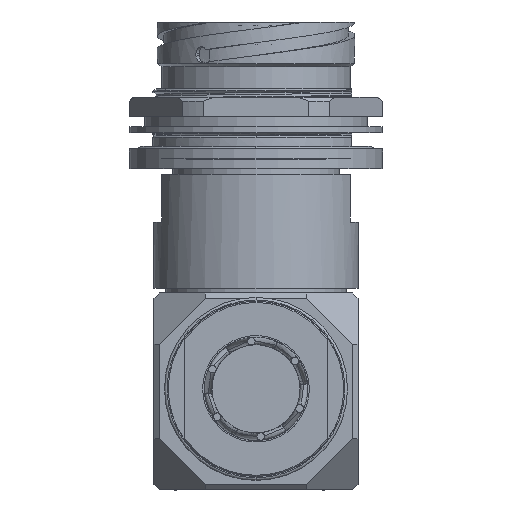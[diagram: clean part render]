
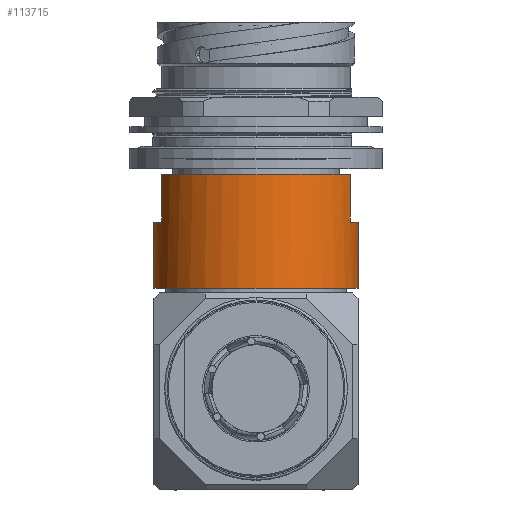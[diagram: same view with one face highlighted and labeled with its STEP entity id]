
A CAD part, front view. The second image highlights one B-rep face of the part: STEP entity #113715.
In plain terms, the highlighted cylindrical face has radius 20.447 mm (diameter 40.894 mm), a partial arc.
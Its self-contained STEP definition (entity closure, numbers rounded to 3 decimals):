
#1916 = CARTESIAN_POINT ( 'NONE',  ( -20.447, 0., -39.853 ) ) ;
#2268 = EDGE_CURVE ( 'NONE', #60630, #115744, #109847, .T. ) ;
#7326 = AXIS2_PLACEMENT_3D ( 'NONE', #29501, #19473, #50214 ) ;
#10472 = LINE ( 'NONE', #13105, #94848 ) ;
#10811 = AXIS2_PLACEMENT_3D ( 'NONE', #49482, #78896, #69546 ) ;
#13105 = CARTESIAN_POINT ( 'NONE',  ( -20.447, 0., -30.328 ) ) ;
#13523 = VERTEX_POINT ( 'NONE', #15694 ) ;
#15694 = CARTESIAN_POINT ( 'NONE',  ( -18.796, -8.049, -30.328 ) ) ;
#18259 = CARTESIAN_POINT ( 'NONE',  ( -20.447, 0., -53.01 ) ) ;
#19473 = DIRECTION ( 'NONE',  ( 0., 0., -1. ) ) ;
#20168 = VERTEX_POINT ( 'NONE', #76934 ) ;
#21504 = AXIS2_PLACEMENT_3D ( 'NONE', #40289, #28289, #50982 ) ;
#22241 = DIRECTION ( 'NONE',  ( 0., 0., -1. ) ) ;
#27086 = VERTEX_POINT ( 'NONE', #42797 ) ;
#27928 = CIRCLE ( 'NONE', #21504, 20.447 ) ;
#28289 = DIRECTION ( 'NONE',  ( 0., 0., 1. ) ) ;
#29501 = CARTESIAN_POINT ( 'NONE',  ( 0., 0., -53.01 ) ) ;
#32325 = VERTEX_POINT ( 'NONE', #91395 ) ;
#32875 = EDGE_CURVE ( 'NONE', #87725, #115744, #10472, .T. ) ;
#33671 = EDGE_CURVE ( 'NONE', #20168, #60630, #35167, .T. ) ;
#34906 = ORIENTED_EDGE ( 'NONE', *, *, #115868, .F. ) ;
#35167 = LINE ( 'NONE', #116767, #109761 ) ;
#36583 = LINE ( 'NONE', #74719, #68282 ) ;
#36687 = CARTESIAN_POINT ( 'NONE',  ( 18.796, -8.049, -30.328 ) ) ;
#37968 = VECTOR ( 'NONE', #110817, 1000. ) ;
#40097 = ORIENTED_EDGE ( 'NONE', *, *, #96663, .T. ) ;
#40289 = CARTESIAN_POINT ( 'NONE',  ( 0., 0., -39.853 ) ) ;
#42797 = CARTESIAN_POINT ( 'NONE',  ( -18.796, -8.049, -39.853 ) ) ;
#44636 = DIRECTION ( 'NONE',  ( 0., 0., 1. ) ) ;
#49482 = CARTESIAN_POINT ( 'NONE',  ( 0., 0., -39.853 ) ) ;
#50214 = DIRECTION ( 'NONE',  ( 1., 0., 0. ) ) ;
#50982 = DIRECTION ( 'NONE',  ( 0., 1., 0. ) ) ;
#52942 = ORIENTED_EDGE ( 'NONE', *, *, #33671, .F. ) ;
#53654 = DIRECTION ( 'NONE',  ( 1., 0., 0. ) ) ;
#60630 = VERTEX_POINT ( 'NONE', #71866 ) ;
#63100 = ORIENTED_EDGE ( 'NONE', *, *, #32875, .T. ) ;
#67384 = AXIS2_PLACEMENT_3D ( 'NONE', #125228, #22241, #53654 ) ;
#68282 = VECTOR ( 'NONE', #44636, 1000. ) ;
#69546 = DIRECTION ( 'NONE',  ( 1., 0., 0. ) ) ;
#69557 = DIRECTION ( 'NONE',  ( 1., 0., 0. ) ) ;
#71866 = CARTESIAN_POINT ( 'NONE',  ( 20.447, 0., -53.01 ) ) ;
#73419 = ORIENTED_EDGE ( 'NONE', *, *, #125925, .F. ) ;
#74719 = CARTESIAN_POINT ( 'NONE',  ( -18.796, -8.049, -30.328 ) ) ;
#76934 = CARTESIAN_POINT ( 'NONE',  ( 20.447, 0., -39.853 ) ) ;
#77913 = DIRECTION ( 'NONE',  ( 0., 0., -1. ) ) ;
#78315 = VERTEX_POINT ( 'NONE', #36687 ) ;
#78896 = DIRECTION ( 'NONE',  ( 0., 0., 1. ) ) ;
#83086 = ORIENTED_EDGE ( 'NONE', *, *, #120383, .F. ) ;
#87725 = VERTEX_POINT ( 'NONE', #1916 ) ;
#89855 = CIRCLE ( 'NONE', #10811, 20.447 ) ;
#90077 = LINE ( 'NONE', #120872, #37968 ) ;
#91395 = CARTESIAN_POINT ( 'NONE',  ( 18.796, -8.049, -39.853 ) ) ;
#94848 = VECTOR ( 'NONE', #104742, 1000. ) ;
#96663 = EDGE_CURVE ( 'NONE', #78315, #13523, #114360, .T. ) ;
#98127 = EDGE_LOOP ( 'NONE', ( #34906, #63100, #99464, #52942, #83086, #112870, #40097, #73419 ) ) ;
#99464 = ORIENTED_EDGE ( 'NONE', *, *, #2268, .F. ) ;
#100729 = EDGE_CURVE ( 'NONE', #78315, #32325, #90077, .T. ) ;
#104742 = DIRECTION ( 'NONE',  ( 0., 0., -1. ) ) ;
#109761 = VECTOR ( 'NONE', #77913, 1000. ) ;
#109847 = CIRCLE ( 'NONE', #7326, 20.447 ) ;
#110817 = DIRECTION ( 'NONE',  ( 0., 0., -1. ) ) ;
#112870 = ORIENTED_EDGE ( 'NONE', *, *, #100729, .F. ) ;
#113715 = ADVANCED_FACE ( 'NONE', ( #119756 ), #120423, .T. ) ;
#114360 = CIRCLE ( 'NONE', #67384, 20.447 ) ;
#115744 = VERTEX_POINT ( 'NONE', #18259 ) ;
#115868 = EDGE_CURVE ( 'NONE', #87725, #27086, #27928, .T. ) ;
#116767 = CARTESIAN_POINT ( 'NONE',  ( 20.447, 0., -30.328 ) ) ;
#117479 = AXIS2_PLACEMENT_3D ( 'NONE', #130457, #131124, #69557 ) ;
#119756 = FACE_OUTER_BOUND ( 'NONE', #98127, .T. ) ;
#120383 = EDGE_CURVE ( 'NONE', #32325, #20168, #89855, .T. ) ;
#120423 = CYLINDRICAL_SURFACE ( 'NONE', #117479, 20.447 ) ;
#120872 = CARTESIAN_POINT ( 'NONE',  ( 18.796, -8.049, -30.328 ) ) ;
#125228 = CARTESIAN_POINT ( 'NONE',  ( 0., 0., -30.328 ) ) ;
#125925 = EDGE_CURVE ( 'NONE', #27086, #13523, #36583, .T. ) ;
#130457 = CARTESIAN_POINT ( 'NONE',  ( 0., 0., -30.328 ) ) ;
#131124 = DIRECTION ( 'NONE',  ( 0., 0., -1. ) ) ;
